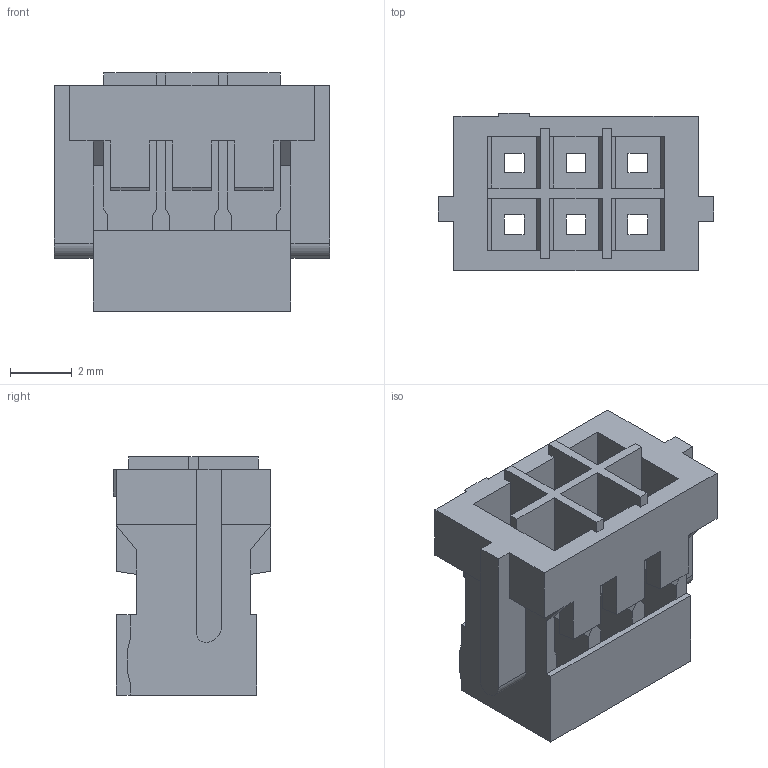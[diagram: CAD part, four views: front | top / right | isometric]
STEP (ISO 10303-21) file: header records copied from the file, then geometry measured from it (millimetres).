
FILE_DESCRIPTION(('CATIA V5 STEP Exchange'),'2;1');
FILE_NAME('F:\黄富鸿\条形连接器\2.00系列\27--YDH\HC-YDH-2x3Y-05（2.00 双排 孔座-HCTL）.stp','2026-01-04T05:53:20+00:00',('none'),('none'),'CATIA Version 5 Release 20 GA (IN-10)','CATIA V5 STEP AP203','none');
FILE_SCHEMA(('CONFIG_CONTROL_DESIGN'));
Length unit declared in the file: millimetre
Products named in the file (1): Part2
Bounding box: 8.9 x 5.1 x 7.7 mm (x, y, z)
Volume: 114.9 mm3; surface area: 530.6 mm2
Topology: 1 solids, 1 shells, 196 faces, 563 edges, 358 vertices
Faces by surface type: plane 192, cylinder 4
Entity records: 5731 total; most frequent: ORIENTED_EDGE 1126, CARTESIAN_POINT 1004, DIRECTION 727, EDGE_CURVE 563, VECTOR 555, LINE 555, VERTEX_POINT 358, EDGE_LOOP 209
